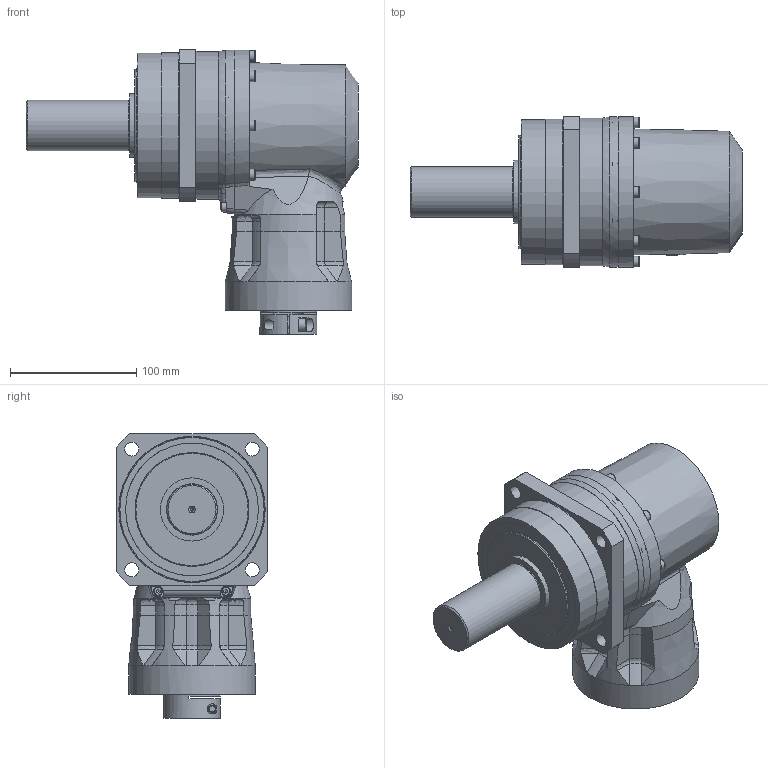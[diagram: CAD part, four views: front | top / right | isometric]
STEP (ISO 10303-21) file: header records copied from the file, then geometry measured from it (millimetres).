
FILE_DESCRIPTION(/* description */ ('ANFX-PK130N-2-Z50G'),/* implementation_level */ '2;1');
FILE_NAME(/* name */ 'C:\Users\ADMINI~1\AppData\Local\Temp\MM582307_ANFX-PK130N-2-Z50G.stp',/* time_stamp */ '2018-07-11T08:34:43+02:00',/* author */ ('Berger'),/* organization */ (''),/* preprocessor_version */ 'ST-DEVELOPER v17',/* originating_system */ 'Autodesk Inventor 2018',/* authorisation */ '');
FILE_SCHEMA (('AUTOMOTIVE_DESIGN { 1 0 10303 214 3 1 1 }'));
Length unit declared in the file: millimetre
Products named in the file (20): MM581710; MMBG0004105; MMCM057LG; MMAF787LG; 5006008RS---G; MMAP6504G; 213742; M530A406212--G; 211458; M214303; 200458; MMBG0004078; MMCL445LG; MMCM226LG; MAX4841G; MAW8388G; MMBG0004116; MMAF790LG; 213890; MMBG0001352
Assembly tree (42 placements, depth 3):
  MM581710
    MMBG0004105
      MMCM057LG
      MMAF787LG
      5006008RS---G
      MMAP6504G
      213742
      M530A406212--G
      211458  x2
      M214303  x8
      200458  x7
    MMBG0004078
      MMCL445LG
      MMCM226LG
      MAX4841G
      MAW8388G
    MMBG0004116
      MMAF790LG
      213890  x10
    MMBG0001352
Bounding box: 262.5 x 120 x 225.2 mm (x, y, z)
Volume: 1426532.8 mm3; surface area: 373425.6 mm2
Topology: 97 solids, 98 shells, 1001 faces, 2789 edges, 1946 vertices
Faces by surface type: plane 455, cylinder 246, cone 114, torus 67, bspline 61, sphere 58
Full cylindrical faces by diameter (mm): 2.5 x1, 3.242 x10, 4 x10, 4.134 x15, 4.5 x10, 4.917 x9, 5 x15, 5.5 x15, 6 x1, 6.6 x1, 7 x10, 8 x8, 8.5 x15, 8.566 x2, 10 x1, 11 x4, 15 x2, 24.5 x1, 28 x1, 37 x1, 38 x1, 39.4 x1, 39.6 x1, 40 x3, 42 x1, 45 x1, 45.28 x1, 49 x1, 49.2 x4, 50 x2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
Entity records: 23992 total; most frequent: CARTESIAN_POINT 5711, DIRECTION 3881, ORIENTED_EDGE 3458, EDGE_CURVE 1729, AXIS2_PLACEMENT_3D 1640, VERTEX_POINT 1303, CIRCLE 927, EDGE_LOOP 850
